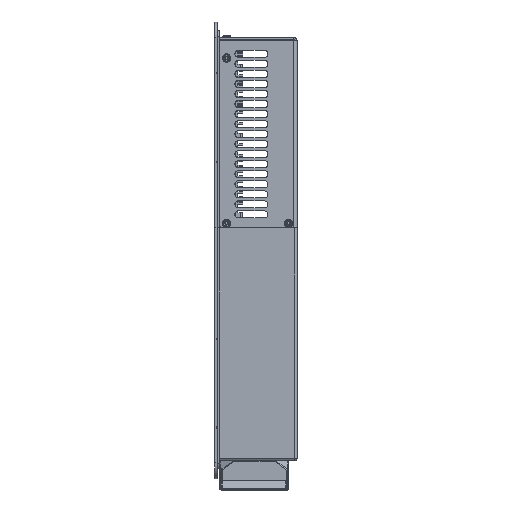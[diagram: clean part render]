
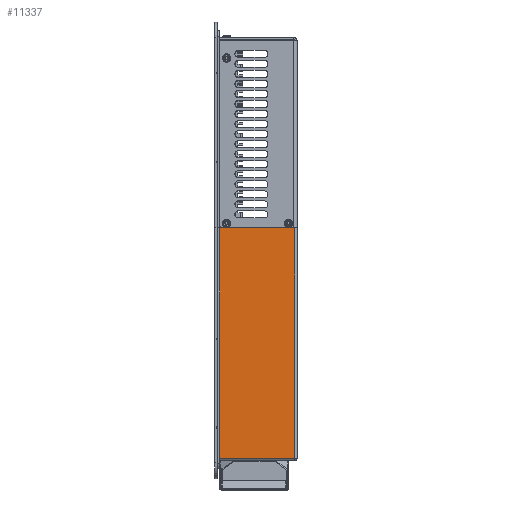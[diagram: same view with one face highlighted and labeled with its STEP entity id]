
A CAD part, left-side view. The second image highlights one B-rep face of the part: STEP entity #11337.
In plain terms, the highlighted planar face has unit normal (-1, 0, 0) as drawn and (0, 1, 0) by its records, which use the part's own axes.
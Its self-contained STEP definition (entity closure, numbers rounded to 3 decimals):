
#1691 = CARTESIAN_POINT ( 'NONE',  ( 54.728, 84.712, -69.8 ) ) ;
#3149 = CARTESIAN_POINT ( 'NONE',  ( 54.728, 84.712, -4. ) ) ;
#6066 = EDGE_CURVE ( 'NONE', #109359, #51956, #44138, .T. ) ;
#11337 = ADVANCED_FACE ( 'NONE', ( #70005 ), #86763, .F. ) ;
#12505 = DIRECTION ( 'NONE',  ( 0., 0., -1. ) ) ;
#13267 = CARTESIAN_POINT ( 'NONE',  ( 249.728, 84.712, -4. ) ) ;
#13955 = CARTESIAN_POINT ( 'NONE',  ( 54.728, 84.712, -4. ) ) ;
#23461 = DIRECTION ( 'NONE',  ( -1., 0., 0. ) ) ;
#25720 = VECTOR ( 'NONE', #50957, 1000. ) ;
#39625 = DIRECTION ( 'NONE',  ( 1., 0., 0. ) ) ;
#41040 = EDGE_CURVE ( 'NONE', #93204, #105665, #62613, .T. ) ;
#41485 = CARTESIAN_POINT ( 'NONE',  ( 54.728, 84.712, -69.8 ) ) ;
#44138 = LINE ( 'NONE', #13955, #69277 ) ;
#47853 = LINE ( 'NONE', #41485, #25720 ) ;
#50957 = DIRECTION ( 'NONE',  ( 0., 0., 1. ) ) ;
#51956 = VERTEX_POINT ( 'NONE', #3149 ) ;
#52581 = EDGE_LOOP ( 'NONE', ( #101907, #86113, #111420, #103063 ) ) ;
#59675 = VECTOR ( 'NONE', #99083, 1000. ) ;
#60995 = CARTESIAN_POINT ( 'NONE',  ( 54.728, 84.712, -67.8 ) ) ;
#62613 = LINE ( 'NONE', #60995, #59675 ) ;
#62650 = LINE ( 'NONE', #69050, #81899 ) ;
#68693 = AXIS2_PLACEMENT_3D ( 'NONE', #1691, #96297, #39625 ) ;
#69050 = CARTESIAN_POINT ( 'NONE',  ( 249.728, 84.712, -69.8 ) ) ;
#69277 = VECTOR ( 'NONE', #23461, 1000. ) ;
#70005 = FACE_OUTER_BOUND ( 'NONE', #52581, .T. ) ;
#81899 = VECTOR ( 'NONE', #12505, 1000. ) ;
#86113 = ORIENTED_EDGE ( 'NONE', *, *, #6066, .F. ) ;
#86763 = PLANE ( 'NONE',  #68693 ) ;
#92524 = CARTESIAN_POINT ( 'NONE',  ( 249.728, 84.712, -67.8 ) ) ;
#93204 = VERTEX_POINT ( 'NONE', #92524 ) ;
#96297 = DIRECTION ( 'NONE',  ( 0., -1., 0. ) ) ;
#99083 = DIRECTION ( 'NONE',  ( -1., 0., 0. ) ) ;
#101907 = ORIENTED_EDGE ( 'NONE', *, *, #108862, .T. ) ;
#103063 = ORIENTED_EDGE ( 'NONE', *, *, #41040, .T. ) ;
#104066 = EDGE_CURVE ( 'NONE', #109359, #93204, #62650, .T. ) ;
#105665 = VERTEX_POINT ( 'NONE', #110413 ) ;
#108862 = EDGE_CURVE ( 'NONE', #105665, #51956, #47853, .T. ) ;
#109359 = VERTEX_POINT ( 'NONE', #13267 ) ;
#110413 = CARTESIAN_POINT ( 'NONE',  ( 54.728, 84.712, -67.8 ) ) ;
#111420 = ORIENTED_EDGE ( 'NONE', *, *, #104066, .T. ) ;
